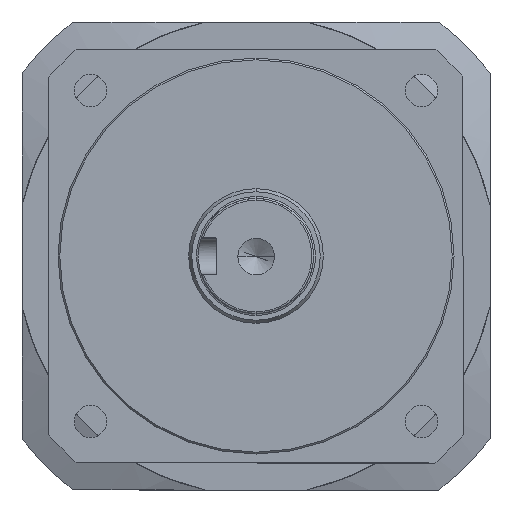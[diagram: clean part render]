
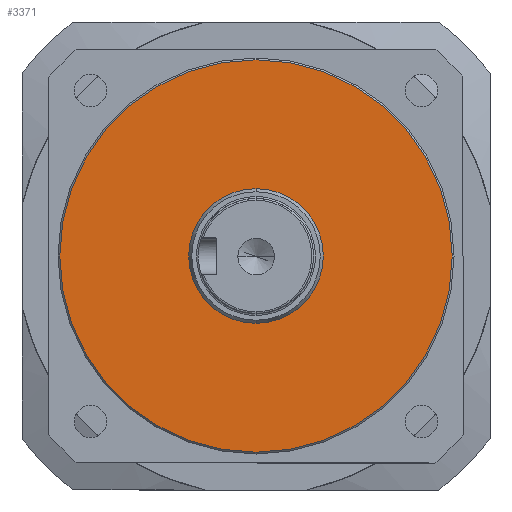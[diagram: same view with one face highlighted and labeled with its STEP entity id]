
A CAD part, left-side view. The second image highlights one B-rep face of the part: STEP entity #3371.
In plain terms, the highlighted planar face has unit normal (-1, 0, 0).
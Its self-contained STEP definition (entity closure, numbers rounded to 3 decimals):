
#21 = PLANE ( 'NONE',  #899 ) ;
#37 = AXIS2_PLACEMENT_3D ( 'NONE', #1196, #911, #2034 ) ;
#141 = CARTESIAN_POINT ( 'NONE',  ( 27., 0., 0. ) ) ;
#281 = EDGE_CURVE ( 'NONE', #1085, #825, #2018, .T. ) ;
#307 = DIRECTION ( 'NONE',  ( 0., 0., -1. ) ) ;
#332 = EDGE_LOOP ( 'NONE', ( #1910, #2835 ) ) ;
#541 = DIRECTION ( 'NONE',  ( -1., 0., 0. ) ) ;
#663 = DIRECTION ( 'NONE',  ( 1., 0., 0. ) ) ;
#675 = DIRECTION ( 'NONE',  ( 0., 0., -1. ) ) ;
#677 = DIRECTION ( 'NONE',  ( 0., 0., -1. ) ) ;
#751 = AXIS2_PLACEMENT_3D ( 'NONE', #2345, #663, #677 ) ;
#817 = ORIENTED_EDGE ( 'NONE', *, *, #2066, .F. ) ;
#825 = VERTEX_POINT ( 'NONE', #2636 ) ;
#899 = AXIS2_PLACEMENT_3D ( 'NONE', #3343, #1713, #307 ) ;
#911 = DIRECTION ( 'NONE',  ( -1., 0., 0. ) ) ;
#943 = EDGE_LOOP ( 'NONE', ( #817, #2352 ) ) ;
#1001 = FACE_OUTER_BOUND ( 'NONE', #332, .T. ) ;
#1040 = CARTESIAN_POINT ( 'NONE',  ( 27., 0., -54.5 ) ) ;
#1085 = VERTEX_POINT ( 'NONE', #3200 ) ;
#1145 = CIRCLE ( 'NONE', #751, 54.5 ) ;
#1196 = CARTESIAN_POINT ( 'NONE',  ( 27., 0., 0. ) ) ;
#1343 = FACE_BOUND ( 'NONE', #943, .T. ) ;
#1367 = VERTEX_POINT ( 'NONE', #2606 ) ;
#1374 = AXIS2_PLACEMENT_3D ( 'NONE', #1915, #541, #2481 ) ;
#1713 = DIRECTION ( 'NONE',  ( 1., 0., 0. ) ) ;
#1737 = AXIS2_PLACEMENT_3D ( 'NONE', #141, #2057, #675 ) ;
#1748 = CIRCLE ( 'NONE', #1737, 54.5 ) ;
#1763 = EDGE_CURVE ( 'NONE', #1367, #1958, #1145, .T. ) ;
#1910 = ORIENTED_EDGE ( 'NONE', *, *, #2543, .F. ) ;
#1915 = CARTESIAN_POINT ( 'NONE',  ( 27., 0., 0. ) ) ;
#1958 = VERTEX_POINT ( 'NONE', #1040 ) ;
#2018 = CIRCLE ( 'NONE', #37, 18.711 ) ;
#2034 = DIRECTION ( 'NONE',  ( 0., 0., -1. ) ) ;
#2057 = DIRECTION ( 'NONE',  ( 1., 0., 0. ) ) ;
#2066 = EDGE_CURVE ( 'NONE', #825, #1085, #2709, .T. ) ;
#2345 = CARTESIAN_POINT ( 'NONE',  ( 27., 0., 0. ) ) ;
#2352 = ORIENTED_EDGE ( 'NONE', *, *, #281, .F. ) ;
#2481 = DIRECTION ( 'NONE',  ( 0., 0., -1. ) ) ;
#2543 = EDGE_CURVE ( 'NONE', #1958, #1367, #1748, .T. ) ;
#2606 = CARTESIAN_POINT ( 'NONE',  ( 27., 0., 54.5 ) ) ;
#2636 = CARTESIAN_POINT ( 'NONE',  ( 27., 0., -18.711 ) ) ;
#2709 = CIRCLE ( 'NONE', #1374, 18.711 ) ;
#2835 = ORIENTED_EDGE ( 'NONE', *, *, #1763, .F. ) ;
#3200 = CARTESIAN_POINT ( 'NONE',  ( 27., 0., 18.711 ) ) ;
#3343 = CARTESIAN_POINT ( 'NONE',  ( 27., 0., -47.5 ) ) ;
#3371 = ADVANCED_FACE ( 'NONE', ( #1001, #1343 ), #21, .F. ) ;
